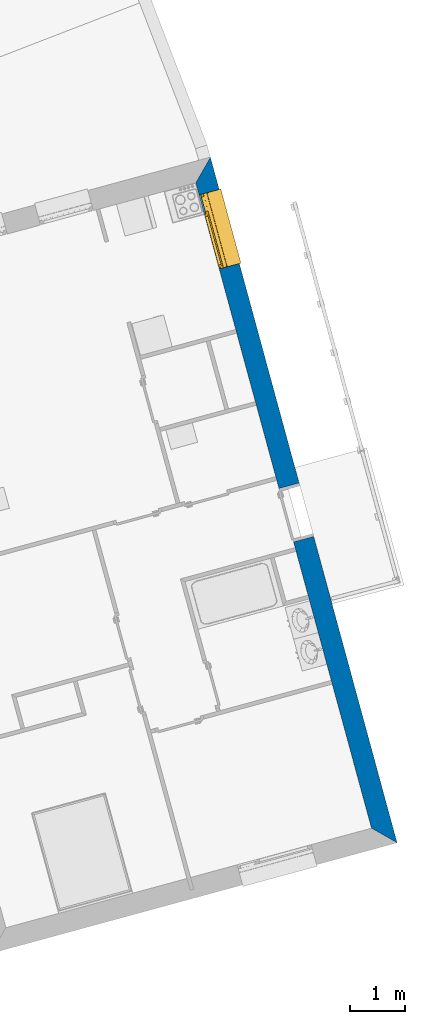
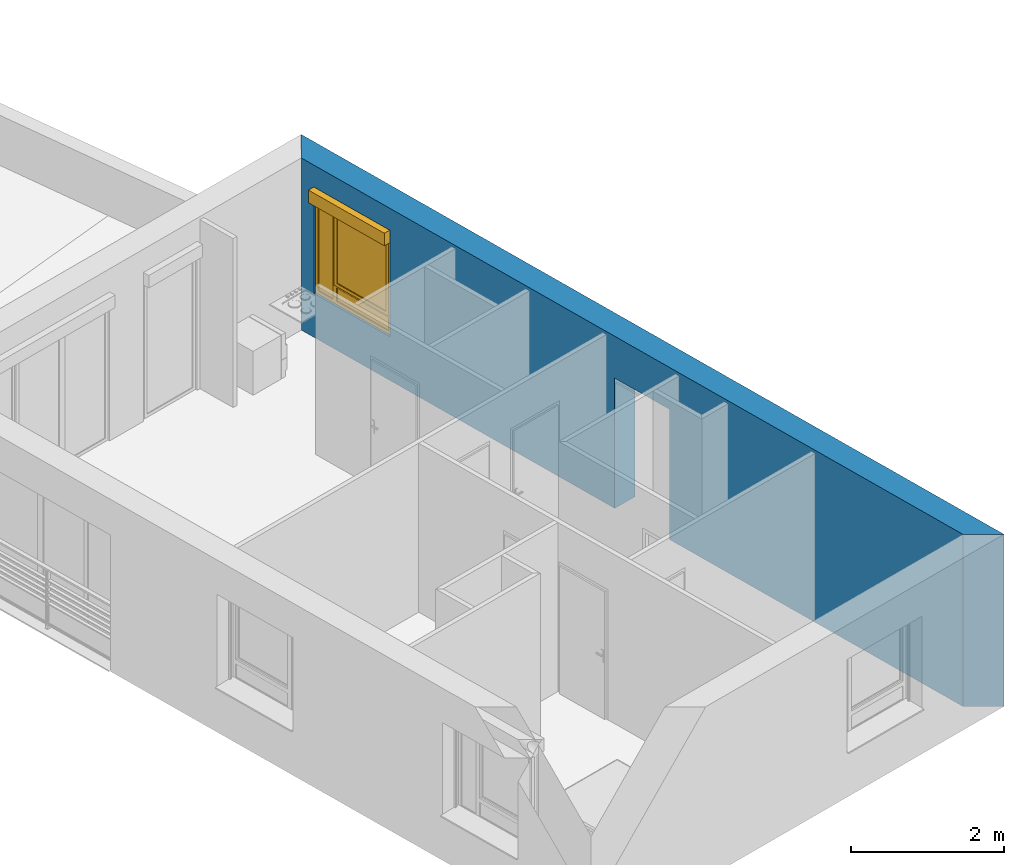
# One storey, part 67 of 121: 1 wall, 1 window, 2 openings.
"""IFC2X3 building model written with IfcOpenShell, lengths in metres."""

from ifc_helpers import new_model, entity, si_unit, converted_unit, derived_unit, money_unit, direction, frame, origin_with_axes, origin_2d_with_axis, place, context, subcontext, project, spatial, polyline, rectangle, outline, extrude, open_shell, faceted_brep, surface_model, source, transform, mapped, material, layer, layer_set, layer_usage, type_object, element, fill, save


model = new_model("IFC2X3")

# Units and contexts
model_context = context("Model", 3, precision=1e-05, world=origin_with_axes(), true_north=direction((0.0, 1.0)))
body_context = subcontext(model_context, "Body", "Model", "MODEL_VIEW")
ifc_project = project(units=[si_unit("LENGTHUNIT", "METRE"), si_unit("AREAUNIT", "SQUARE_METRE"), si_unit("VOLUMEUNIT", "CUBIC_METRE"), converted_unit("PLANEANGLEUNIT", "DEGREE", entity("IfcPlaneAngleMeasure", 0.0174532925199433), si_unit("PLANEANGLEUNIT", "RADIAN"), dimensions=[0, 0, 0, 0, 0, 0, 0]), money_unit("CHF"), converted_unit("TIMEUNIT", "Year", entity("IfcTimeMeasure", 31557600.0), si_unit("TIMEUNIT", "SECOND"), dimensions=[0, 0, 1, 0, 0, 0, 0]), si_unit("MASSUNIT", "GRAM", prefix="KILO"), si_unit("THERMODYNAMICTEMPERATUREUNIT", "DEGREE_CELSIUS"), si_unit("LUMINOUSINTENSITYUNIT", "LUMEN"), si_unit("ENERGYUNIT", "JOULE", prefix="MEGA"), derived_unit("THERMALCONDUCTANCEUNIT", [(si_unit("POWERUNIT", "WATT"), 1), (si_unit("LENGTHUNIT", "METRE"), -1), (si_unit("THERMODYNAMICTEMPERATUREUNIT", "KELVIN"), -1)]), derived_unit("SPECIFICHEATCAPACITYUNIT", [(si_unit("ENERGYUNIT", "JOULE"), 1), (si_unit("MASSUNIT", "GRAM", prefix="KILO"), -1), (si_unit("THERMODYNAMICTEMPERATUREUNIT", "KELVIN"), -1)]), derived_unit("MASSDENSITYUNIT", [(si_unit("MASSUNIT", "GRAM", prefix="KILO"), 1), (si_unit("VOLUMEUNIT", "CUBIC_METRE"), -1)])], contexts=[model_context])

# Site, building, storey
site_placement = place(None, origin_with_axes())
site = spatial("IfcSite", under=ifc_project, at=site_placement, Name="Site", CompositionType="ELEMENT")
building_placement = place(site_placement, origin_with_axes())
building = spatial("IfcBuilding", under=site, at=building_placement, Name="Bâtiment", CompositionType="ELEMENT")
storey_placement = place(building_placement, frame((0.0, 0.0, 2.75), z_axis=(0.0, 0.0, 1.0), x_axis=(1.0, 0.0, 0.0)))
storey = spatial("IfcBuildingStorey", under=building, at=storey_placement, Name="Etage 1", CompositionType="ELEMENT", Elevation=2.75)

# Wall, openings, window
ifc_material_1 = material(Name="Parpaing 312445824")
ifc_layer_1 = layer(ifc_material_1, 0.22, ventilated="UNKNOWN")
ifc_material_2 = material(Name="Isolant styromousse 301821074")
ifc_layer_2 = layer(ifc_material_2, 0.16, ventilated="UNKNOWN")
ifc_layer_set = layer_set([ifc_layer_1, ifc_layer_2], Name="isol int 22+16 0836643197")
ifc_layer_usage = layer_usage(ifc_layer_set, "AXIS2", "POSITIVE", 0.0)
wall_type = type_object("IfcWallType", Name="isol int 22+16 0836643197 380", PredefinedType="NOTDEFINED")
wall_placement = place(storey_placement, frame((9597.140845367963, -1057.414526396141, 57.7), z_axis=(0.0, 0.0, 1.0), x_axis=(-0.262734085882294, 0.9648682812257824, 0.0)))
wall = element("IfcWallStandardCase", 1, at=wall_placement, inside=storey, type_object=wall_type, material=ifc_layer_usage, Name="Mur-113", context=body_context, shape_type="SweptSolid", body=[
    extrude(outline(polyline([(0.0, 0.0), (12.95727343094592, 0.0), (12.57727343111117, 0.3799999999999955), (0.3800000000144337, 0.3799999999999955), (0.0, 0.0)])), origin_with_axes(), (0.0, 0.0, 1.0), 2.75),
])
opening_1_placement = place(wall_placement, frame((11.64681429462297, 0.0, 0.7000000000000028), z_axis=(0.0, 0.0, 1.0), x_axis=(1.0, 0.0, 0.0)))
opening_1 = element("IfcOpeningElement", 2, at=opening_1_placement, cuts=wall, Name="Fen-045", context=body_context, shape_type="Brep", body=[
    faceted_brep([(0.6999999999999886, 0.2200000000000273, 1.5), (-0.6999999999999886, 0.2200000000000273, 1.5), (-0.7000000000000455, -3.28571786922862, 1.5), (0.6999999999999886, -3.28571786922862, 1.5), (0.6999999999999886, 0.2200000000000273, 1.700000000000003), (-0.6999999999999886, 0.2200000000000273, 1.700000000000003), (-0.7000000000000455, 0.2999999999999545, 1.5), (-0.7000000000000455, 0.2999999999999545, 0.0), (-0.7000000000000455, -3.28571786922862, 0.0), (0.6999999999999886, -3.28571786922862, 0.0), (0.6999999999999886, 0.3000000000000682, 1.5), (0.6999999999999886, 0.3000000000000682, 0.0), (0.6999999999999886, 0.4800000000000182, 1.5), (0.6999999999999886, 0.4800000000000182, 1.700000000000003), (-0.7000000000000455, 0.4799999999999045, 1.700000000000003), (-0.7000000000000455, 0.4799999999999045, 1.5), (-0.7000000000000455, 3.665717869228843, 1.5), (-0.7000000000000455, 3.665717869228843, 0.0), (0.6999999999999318, 3.665717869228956, 0.0), (0.6999999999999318, 3.665717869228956, 1.5)], [[[0, 1, 2, 3]], [[1, 0, 4, 5]], [[1, 6, 7, 8, 2]], [[2, 8, 9, 3]], [[10, 0, 3, 9, 11]], [[0, 10, 12, 13, 4]], [[4, 13, 14, 5]], [[6, 1, 5, 14, 15]], [[6, 15, 16, 17, 7]], [[7, 11, 9, 8]], [[12, 10, 11, 18, 19]], [[12, 15, 14, 13]], [[15, 12, 19, 16]], [[19, 18, 17, 16]], [[11, 7, 17, 18]]]),
])
opening_2_placement = place(wall_placement, frame((6.294315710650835, 0.0, 0.0), z_axis=(0.0, 0.0, 1.0), x_axis=(1.0, 0.0, 0.0)))
element("IfcOpeningElement", 3, at=opening_2_placement, cuts=wall, Name="Por-293", context=body_context, shape_type="SweptSolid", body=[
    extrude(rectangle(XDim=1.01000001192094, YDim=2.079999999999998, at=origin_2d_with_axis()), frame((-5.960430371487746e-09, -0.3799999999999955, 1.039999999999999), z_axis=(0.0, -1.0, 0.0), x_axis=(-1.0, 0.0, 0.0)), (0.0, 0.0, -1.0), 0.76),
])
window_style = type_object("IfcWindowStyle", Name="Fenêtre variable 27", ConstructionType="NOTDEFINED", OperationType="TRIPLE_PANEL_RIGHT", ParameterTakesPrecedence=False, Sizeable=False)
shared_shape = source(origin_with_axes(), body_context, "Body", "SurfaceModel", [
    surface_model("IfcShellBasedSurfaceModel", [(-0.7, -0.05100000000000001, 0.05), (-0.7, -0.05100000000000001, 0.04), (0.7, -0.05100000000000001, 0.04000000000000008), (0.7, -0.05100000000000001, 0.05000000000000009), (-0.7, -0.3799999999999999, 0.02899999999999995), (0.7, -0.3799999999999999, 0.02900000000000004), (-0.7, -0.3799999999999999, 0.008999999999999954), (0.7, -0.3799999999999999, 0.00900000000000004), (-0.7, -0.3699999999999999, 0.01899999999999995), (0.7, -0.3699999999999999, 0.01900000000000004)], [open_shell([[[0, 1, 2, 3]], [[1, 4, 5, 2]], [[4, 6, 7, 5]], [[6, 8, 9, 7]]])]),
    faceted_brep([(-0.7, -0.13, 1.7), (-0.697, -0.13, 1.7), (-0.697, 0.13, 1.7), (-0.7, 0.13, 1.7), (-0.7, -0.13, 1.5), (-0.697, -0.13, 1.5), (-0.697, 0.13, 1.5), (-0.7, 0.13, 1.5)], [[[0, 1, 2, 3]], [[4, 5, 1, 0]], [[1, 5, 6, 2]], [[3, 2, 6, 7]], [[0, 3, 7, 4]], [[7, 6, 5, 4]]]),
    faceted_brep([(0.6970000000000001, -0.1299999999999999, 1.7), (0.7000000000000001, -0.1299999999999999, 1.7), (0.7000000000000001, 0.1300000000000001, 1.7), (0.6970000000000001, 0.1300000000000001, 1.7), (0.6970000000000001, -0.1299999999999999, 1.5), (0.7000000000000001, -0.1299999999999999, 1.5), (0.7000000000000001, 0.1300000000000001, 1.5), (0.6970000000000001, 0.1300000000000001, 1.5)], [[[0, 1, 2, 3]], [[4, 5, 1, 0]], [[1, 5, 6, 2]], [[3, 2, 6, 7]], [[0, 3, 7, 4]], [[7, 6, 5, 4]]]),
    faceted_brep([(-0.697, -0.13, 1.5), (0.697, -0.1299999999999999, 1.5), (0.697, -0.1299999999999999, 1.7), (-0.697, -0.13, 1.7), (-0.697, -0.127, 1.5), (0.697, -0.1269999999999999, 1.5), (0.697, -0.1269999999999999, 1.697), (0.697, 0.1270000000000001, 1.697), (0.697, 0.1270000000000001, 1.503), (0.697, -0.1079999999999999, 1.503), (0.697, -0.1079999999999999, 1.5), (0.697, 0.1300000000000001, 1.5), (0.697, 0.1300000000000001, 1.7), (-0.697, 0.13, 1.7), (-0.697, 0.13, 1.5), (-0.697, -0.108, 1.5), (-0.697, -0.108, 1.503), (-0.697, 0.127, 1.503), (-0.697, 0.127, 1.697), (-0.697, -0.127, 1.697)], [[[0, 1, 2, 3]], [[4, 5, 1, 0]], [[1, 5, 6, 7, 8, 9, 10, 11, 12, 2]], [[3, 2, 12, 13]], [[0, 3, 13, 14, 15, 16, 17, 18, 19, 4]], [[19, 6, 5, 4]], [[18, 7, 6, 19]], [[17, 8, 7, 18]], [[16, 9, 8, 17]], [[15, 10, 9, 16]], [[14, 11, 10, 15]], [[13, 12, 11, 14]]]),
    faceted_brep([(-0.694, -0.08075423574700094, 1.585760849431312), (-0.694, -0.08200000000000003, 1.6), (-0.694, -0.0807542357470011, 1.614239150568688), (-0.694, -0.07705479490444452, 1.628045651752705), (-0.694, -0.07101408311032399, 1.641), (-0.694, -0.06281564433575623, 1.652708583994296), (-0.694, -0.05270858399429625, 1.662815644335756), (-0.694, -0.04100000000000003, 1.671014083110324), (-0.694, -0.02804565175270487, 1.677054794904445), (-0.694, -0.01423915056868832, 1.680754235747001), (-0.694, 0.0, 1.682), (-0.694, 0.01423915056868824, 1.680754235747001), (-0.694, 0.02804565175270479, 1.677054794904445), (-0.694, 0.04099999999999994, 1.671014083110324), (-0.694, 0.05270858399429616, 1.662815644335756), (-0.694, 0.06281564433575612, 1.652708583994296), (-0.694, 0.07101408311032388, 1.641), (-0.694, 0.0770547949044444, 1.628045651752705), (-0.694, 0.08075423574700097, 1.614239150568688), (-0.694, 0.0819999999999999, 1.6), (-0.694, 0.08075423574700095, 1.585760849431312), (-0.694, 0.07705479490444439, 1.571954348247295), (-0.694, 0.07101408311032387, 1.559), (-0.694, 0.06281564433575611, 1.547291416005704), (-0.694, 0.05270858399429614, 1.537184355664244), (-0.694, 0.04099999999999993, 1.528985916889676), (-0.694, 0.02804565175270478, 1.522945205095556), (-0.694, 0.01423915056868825, 1.519245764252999), (-0.694, 0.0, 1.518), (-0.694, -0.01423915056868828, 1.519245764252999), (-0.694, -0.02804565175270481, 1.522945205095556), (-0.694, -0.04099999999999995, 1.528985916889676), (-0.694, -0.05270858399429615, 1.537184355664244), (-0.694, -0.06281564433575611, 1.547291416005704), (-0.694, -0.07101408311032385, 1.559), (-0.694, -0.07705479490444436, 1.571954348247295), (0.694, -0.08075423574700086, 1.585760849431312), (0.694, -0.08199999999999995, 1.6), (0.694, -0.08075423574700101, 1.614239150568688), (0.694, -0.07705479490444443, 1.628045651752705), (0.694, -0.07101408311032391, 1.641), (0.694, -0.06281564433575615, 1.652708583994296), (0.694, -0.05270858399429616, 1.662815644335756), (0.694, -0.04099999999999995, 1.671014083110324), (0.694, -0.02804565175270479, 1.677054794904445), (0.694, -0.01423915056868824, 1.680754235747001), (0.694, 0.0, 1.682), (0.694, 0.01423915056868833, 1.680754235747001), (0.694, 0.02804565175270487, 1.677054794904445), (0.694, 0.04100000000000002, 1.671014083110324), (0.694, 0.05270858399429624, 1.662815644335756), (0.694, 0.0628156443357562, 1.652708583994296), (0.694, 0.07101408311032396, 1.641), (0.694, 0.07705479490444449, 1.628045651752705), (0.694, 0.08075423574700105, 1.614239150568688), (0.694, 0.08199999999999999, 1.6), (0.694, 0.08075423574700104, 1.585760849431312), (0.694, 0.07705479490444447, 1.571954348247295), (0.694, 0.07101408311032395, 1.559), (0.694, 0.06281564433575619, 1.547291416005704), (0.694, 0.05270858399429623, 1.537184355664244), (0.694, 0.04100000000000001, 1.528985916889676), (0.694, 0.02804565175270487, 1.522945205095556), (0.694, 0.01423915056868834, 1.519245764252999), (0.694, 0.0, 1.518), (0.694, -0.0142391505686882, 1.519245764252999), (0.694, -0.02804565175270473, 1.522945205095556), (0.694, -0.04099999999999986, 1.528985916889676), (0.694, -0.05270858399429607, 1.537184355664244), (0.694, -0.06281564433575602, 1.547291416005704), (0.694, -0.07101408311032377, 1.559), (0.694, -0.07705479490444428, 1.571954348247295)], [[[0, 1, 2, 3, 4, 5, 6, 7, 8, 9, 10, 11, 12, 13, 14, 15, 16, 17, 18, 19, 20, 21, 22, 23, 24, 25, 26, 27, 28, 29, 30, 31, 32, 33, 34, 35]], [[0, 36, 37, 1]], [[1, 37, 38, 2]], [[2, 38, 39, 3]], [[3, 39, 40, 4]], [[4, 40, 41, 5]], [[5, 41, 42, 6]], [[6, 42, 43, 7]], [[7, 43, 44, 8]], [[8, 44, 45, 9]], [[9, 45, 46, 10]], [[10, 46, 47, 11]], [[11, 47, 48, 12]], [[12, 48, 49, 13]], [[13, 49, 50, 14]], [[14, 50, 51, 15]], [[15, 51, 52, 16]], [[16, 52, 53, 17]], [[17, 53, 54, 18]], [[18, 54, 55, 19]], [[19, 55, 56, 20]], [[20, 56, 57, 21]], [[21, 57, 58, 22]], [[22, 58, 59, 23]], [[23, 59, 60, 24]], [[24, 60, 61, 25]], [[25, 61, 62, 26]], [[26, 62, 63, 27]], [[27, 63, 64, 28]], [[28, 64, 65, 29]], [[29, 65, 66, 30]], [[30, 66, 67, 31]], [[31, 67, 68, 32]], [[32, 68, 69, 33]], [[33, 69, 70, 34]], [[34, 70, 71, 35]], [[35, 71, 36, 0]], [[36, 71, 70, 69, 68, 67, 66, 65, 64, 63, 62, 61, 60, 59, 58, 57, 56, 55, 54, 53, 52, 51, 50, 49, 48, 47, 46, 45, 44, 43, 42, 41, 40, 39, 38, 37]]]),
    faceted_brep([(0.7, -0.105, 0.03), (0.7, -0.1049999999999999, 1.5), (0.7, -0.1299999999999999, 1.5), (0.7, -0.13, 0.03), (0.6749999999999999, -0.105, 0.03), (0.6749999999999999, -0.1049999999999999, 1.5), (0.6749999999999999, -0.1079999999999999, 1.5), (0.697, -0.1079999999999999, 1.5), (0.697, -0.1269999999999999, 1.5), (0.6749999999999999, -0.1269999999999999, 1.5), (0.6749999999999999, -0.1299999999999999, 1.5), (0.6749999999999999, -0.13, 0.03), (0.6749999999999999, -0.127, 0.03), (0.697, -0.127, 0.03), (0.697, -0.108, 0.03), (0.6749999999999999, -0.108, 0.03)], [[[0, 1, 2, 3]], [[4, 5, 1, 0]], [[1, 5, 6, 7, 8, 9, 10, 2]], [[3, 2, 10, 11]], [[0, 3, 11, 12, 13, 14, 15, 4]], [[15, 6, 5, 4]], [[14, 7, 6, 15]], [[13, 8, 7, 14]], [[12, 9, 8, 13]], [[11, 10, 9, 12]]]),
    faceted_brep([(-0.7, -0.105, 0.03), (-0.7, -0.13, 0.03), (-0.7, -0.1299999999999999, 1.5), (-0.7, -0.1049999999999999, 1.5), (-0.6749999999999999, -0.105, 0.03), (-0.6749999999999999, -0.108, 0.03), (-0.697, -0.108, 0.03), (-0.697, -0.127, 0.03), (-0.6749999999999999, -0.127, 0.03), (-0.6749999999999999, -0.13, 0.03), (-0.6749999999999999, -0.1299999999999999, 1.5), (-0.6749999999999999, -0.1269999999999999, 1.5), (-0.697, -0.1269999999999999, 1.5), (-0.697, -0.1079999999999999, 1.5), (-0.6749999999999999, -0.1079999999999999, 1.5), (-0.6749999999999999, -0.1049999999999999, 1.5)], [[[0, 1, 2, 3]], [[0, 4, 5, 6, 7, 8, 9, 1]], [[1, 9, 10, 2]], [[3, 2, 10, 11, 12, 13, 14, 15]], [[4, 0, 3, 15]], [[5, 4, 15, 14]], [[6, 5, 14, 13]], [[7, 6, 13, 12]], [[8, 7, 12, 11]], [[9, 8, 11, 10]]]),
    surface_model("IfcShellBasedSurfaceModel", [(-0.697, -0.115, 1.6), (0.697, -0.1149999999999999, 1.6), (0.697, -0.1199999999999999, 1.6), (-0.697, -0.12, 1.6), (-0.697, -0.115, 1.6), (-0.697, -0.12, 1.6), (0.697, -0.12, 1.6), (0.697, -0.1149999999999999, 1.6)], [open_shell([[[0, 1, 2, 3]], [[4, 5, 6, 7]]])]),
    faceted_brep([(-0.697, -0.115, 1.6), (0.697, -0.1149999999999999, 1.6), (0.697, -0.1166666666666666, 1.583333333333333), (-0.697, -0.1166666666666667, 1.583333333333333), (-0.697, -0.12, 1.6), (0.697, -0.1199999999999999, 1.6), (0.697, -0.1216666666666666, 1.583333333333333), (0.697, -0.1216666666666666, 1.566666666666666), (0.697, -0.1199999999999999, 1.55), (0.697, -0.1149999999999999, 1.55), (0.697, -0.1166666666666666, 1.566666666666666), (-0.697, -0.1166666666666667, 1.566666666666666), (-0.697, -0.115, 1.55), (-0.697, -0.12, 1.55), (-0.697, -0.1216666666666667, 1.566666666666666), (-0.697, -0.1216666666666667, 1.583333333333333)], [[[0, 1, 2, 3]], [[4, 5, 1, 0]], [[1, 5, 6, 7, 8, 9, 10, 2]], [[3, 2, 10, 11]], [[0, 3, 11, 12, 13, 14, 15, 4]], [[15, 6, 5, 4]], [[14, 7, 6, 15]], [[13, 8, 7, 14]], [[12, 9, 8, 13]], [[11, 10, 9, 12]]]),
    faceted_brep([(-0.697, -0.115, 1.55), (0.697, -0.1149999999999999, 1.55), (0.697, -0.1166666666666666, 1.533333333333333), (-0.697, -0.1166666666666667, 1.533333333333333), (-0.697, -0.12, 1.55), (0.697, -0.1199999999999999, 1.55), (0.697, -0.1216666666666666, 1.533333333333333), (0.697, -0.1216666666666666, 1.516666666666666), (0.697, -0.1199999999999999, 1.5), (0.697, -0.1149999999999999, 1.5), (0.697, -0.1166666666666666, 1.516666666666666), (-0.697, -0.1166666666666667, 1.516666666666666), (-0.697, -0.115, 1.5), (-0.697, -0.12, 1.5), (-0.697, -0.1216666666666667, 1.516666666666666), (-0.697, -0.1216666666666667, 1.533333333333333)], [[[0, 1, 2, 3]], [[4, 5, 1, 0]], [[1, 5, 6, 7, 8, 9, 10, 2]], [[3, 2, 10, 11]], [[0, 3, 11, 12, 13, 14, 15, 4]], [[15, 6, 5, 4]], [[14, 7, 6, 15]], [[13, 8, 7, 14]], [[12, 9, 8, 13]], [[11, 10, 9, 12]]]),
    faceted_brep([(-0.6749999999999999, 0.0, 1.45), (-0.7, 0.0, 1.45), (-0.7, -0.05000000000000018, 1.45), (-0.6499999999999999, -0.05000000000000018, 1.45), (-0.6499999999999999, -0.02500000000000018, 1.45), (-0.6749999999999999, -0.02500000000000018, 1.45), (-0.6749999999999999, 0.0, 0.3099999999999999), (-0.6499999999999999, 0.0, 0.3099999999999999), (-0.6499999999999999, 0.0, 0.265), (-0.6499999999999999, 0.0, 0.05000000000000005), (-0.7, 0.0, 0.05000000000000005), (-0.7, -0.05000000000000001, 0.05000000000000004), (-0.6499999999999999, -0.05000000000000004, 0.335), (-0.6499999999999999, -0.05000000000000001, 0.05000000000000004), (-0.6499999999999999, -0.05000000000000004, 0.265), (-0.6499999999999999, -0.02500000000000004, 0.335), (-0.6499999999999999, -0.02500000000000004, 0.3099999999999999), (-0.6749999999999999, -0.02500000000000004, 0.3099999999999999)], [[[0, 1, 2, 3, 4, 5]], [[6, 7, 8, 9, 10, 1, 0]], [[1, 10, 11, 2]], [[12, 3, 2, 11, 13, 14]], [[4, 3, 12, 15]], [[15, 16, 17, 5, 4]], [[5, 17, 6, 0]], [[6, 17, 16, 7]], [[16, 15, 12, 14, 8, 7]], [[9, 8, 14, 13]], [[10, 9, 13, 11]]]),
    faceted_brep([(0.3068894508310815, -0.02500000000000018, 1.45), (0.3068894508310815, -0.05000000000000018, 1.45), (0.3768894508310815, -0.05000000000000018, 1.45), (0.3768894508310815, 0.0, 1.45), (0.3318894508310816, 0.0, 1.45), (0.3318894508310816, -0.02500000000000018, 1.45), (0.3068894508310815, -0.02500000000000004, 0.335), (0.3068894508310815, -0.05000000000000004, 0.335), (0.3068894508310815, -0.05000000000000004, 0.265), (0.3068894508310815, -0.05000000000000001, 0.05000000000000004), (0.3768894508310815, -0.05000000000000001, 0.05000000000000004), (0.3768894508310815, 0.0, 0.05000000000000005), (0.3318894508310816, 0.0, 0.3099999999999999), (0.3068894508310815, 0.0, 0.05000000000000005), (0.3068894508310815, 0.0, 0.265), (0.3068894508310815, 0.0, 0.3099999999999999), (0.3318894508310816, -0.02500000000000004, 0.3099999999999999), (0.3068894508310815, -0.02500000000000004, 0.3099999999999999)], [[[0, 1, 2, 3, 4, 5]], [[6, 7, 1, 0]], [[8, 9, 10, 2, 1, 7]], [[11, 3, 2, 10]], [[12, 4, 3, 11, 13, 14, 15]], [[12, 16, 5, 4]], [[5, 16, 17, 6, 0]], [[17, 15, 14, 8, 7, 6]], [[14, 13, 9, 8]], [[13, 11, 10, 9]], [[15, 17, 16, 12]]]),
    faceted_brep([(-0.6499999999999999, -0.02500000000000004, 0.335), (-0.6499999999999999, -0.05000000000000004, 0.335), (0.3068894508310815, -0.05000000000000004, 0.335), (0.3068894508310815, -0.02500000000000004, 0.335), (-0.6499999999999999, -0.02500000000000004, 0.3099999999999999), (-0.6499999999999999, 0.0, 0.3099999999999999), (-0.6499999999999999, 0.0, 0.265), (-0.6499999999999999, -0.05000000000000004, 0.265), (0.3068894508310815, -0.05000000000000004, 0.265), (0.3068894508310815, -0.02500000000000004, 0.3099999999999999), (0.3068894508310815, 0.0, 0.265), (0.3068894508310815, 0.0, 0.3099999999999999)], [[[0, 1, 2, 3]], [[4, 5, 6, 7, 1, 0]], [[2, 1, 7, 8]], [[9, 3, 2, 8, 10, 11]], [[9, 4, 0, 3]], [[5, 4, 9, 11]], [[11, 10, 6, 5]], [[6, 10, 8, 7]]]),
    faceted_brep([(-0.6749999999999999, 0.0, 1.45), (-0.7, 0.0, 1.45), (-0.7, 0.0, 1.5), (0.7, 0.0, 1.5), (0.7, 0.0, 1.45), (0.6499999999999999, 0.0, 1.45), (0.3768894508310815, 0.0, 1.45), (0.3318894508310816, 0.0, 1.45), (0.3318894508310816, 0.0, 1.475), (-0.6749999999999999, 0.0, 1.475), (-0.6749999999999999, -0.02500000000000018, 1.45), (-0.6499999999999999, -0.02500000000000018, 1.45), (-0.6499999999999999, -0.05000000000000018, 1.45), (-0.7, -0.05000000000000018, 1.45), (-0.7, -0.05000000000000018, 1.5), (0.7, -0.05000000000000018, 1.5), (0.7, -0.05000000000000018, 1.45), (0.6499999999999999, -0.05000000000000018, 1.45), (0.3768894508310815, -0.05000000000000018, 1.45), (0.3318894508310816, -0.02500000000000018, 1.45), (0.3068894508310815, -0.05000000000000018, 1.45), (0.3068894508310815, -0.02500000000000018, 1.45), (0.3318894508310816, -0.02500000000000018, 1.475), (-0.6749999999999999, -0.02500000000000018, 1.475)], [[[0, 1, 2, 3, 4, 5, 6, 7, 8, 9]], [[10, 11, 12, 13, 1, 0]], [[2, 1, 13, 14]], [[3, 2, 14, 15]], [[4, 3, 15, 16]], [[5, 4, 16, 17]], [[6, 5, 17, 18]], [[19, 7, 6, 18, 20, 21]], [[7, 19, 22, 8]], [[8, 22, 23, 9]], [[9, 23, 10, 0]], [[21, 11, 10, 23, 22, 19]], [[21, 20, 12, 11]], [[18, 17, 16, 15, 14, 13, 12, 20]]]),
    faceted_brep([(0.6499999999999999, -0.05000000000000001, 0.05), (0.6499999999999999, 0.0, 0.05000000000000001), (0.7, 0.0, 0.05000000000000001), (0.7, -0.05000000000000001, 0.05), (0.6499999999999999, -0.05000000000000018, 1.45), (0.6499999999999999, 0.0, 1.45), (0.7, 0.0, 1.45), (0.7, -0.05000000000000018, 1.45)], [[[0, 1, 2, 3]], [[4, 5, 1, 0]], [[1, 5, 6, 2]], [[3, 2, 6, 7]], [[0, 3, 7, 4]], [[7, 6, 5, 4]]]),
    faceted_brep([(-0.6499999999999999, -0.05000000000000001, 0.05), (-0.6499999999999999, 0.0, 0.05000000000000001), (-0.7, 0.0, 0.05000000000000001), (-0.7, -0.05000000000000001, 0.05), (0.3068894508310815, -0.05000000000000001, 0.05), (0.3068894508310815, 0.0, 0.05000000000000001), (0.3768894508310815, 0.0, 0.05000000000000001), (0.6499999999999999, 0.0, 0.05000000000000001), (0.7, 0.0, 0.05000000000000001), (0.7, 0.0, 0.0), (-0.7, 0.0, 0.0), (-0.7, -0.05, 0.0), (0.7, -0.05, 0.0), (0.7, -0.05000000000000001, 0.05), (0.6499999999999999, -0.05000000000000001, 0.05), (0.3768894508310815, -0.05000000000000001, 0.05)], [[[0, 1, 2, 3]], [[4, 5, 1, 0]], [[1, 5, 6, 7, 8, 9, 10, 2]], [[3, 2, 10, 11]], [[0, 3, 11, 12, 13, 14, 15, 4]], [[15, 6, 5, 4]], [[14, 7, 6, 15]], [[13, 8, 7, 14]], [[12, 9, 8, 13]], [[11, 10, 9, 12]]]),
    faceted_brep([(-0.625, -0.02500000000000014, 1.425), (-0.625, 0.02499999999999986, 1.425), (-0.6749999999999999, 0.02499999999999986, 1.425), (-0.6749999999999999, -0.02500000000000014, 1.425), (-0.625, -0.02500000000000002, 0.3599999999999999), (-0.625, 0.02499999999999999, 0.3599999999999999), (-0.6749999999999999, 0.02499999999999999, 0.3599999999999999), (-0.6749999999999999, -0.02500000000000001, 0.3599999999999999)], [[[0, 1, 2, 3]], [[4, 5, 1, 0]], [[1, 5, 6, 2]], [[3, 2, 6, 7]], [[0, 3, 7, 4]], [[7, 6, 5, 4]]]),
    faceted_brep([(0.2818894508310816, -0.02500000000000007, 0.3599999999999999), (0.2818894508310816, 0.02499999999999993, 0.3599999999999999), (0.3318894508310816, 0.02499999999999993, 0.3599999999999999), (0.3318894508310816, -0.02500000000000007, 0.3599999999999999), (0.2818894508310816, -0.0250000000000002, 1.425), (0.2818894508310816, 0.0249999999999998, 1.425), (0.3318894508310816, 0.0249999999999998, 1.425), (0.3318894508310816, -0.0250000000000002, 1.425)], [[[0, 1, 2, 3]], [[4, 5, 1, 0]], [[1, 5, 6, 2]], [[3, 2, 6, 7]], [[0, 3, 7, 4]], [[7, 6, 5, 4]]]),
    faceted_brep([(0.3318894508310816, -0.02500000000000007, 0.3099999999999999), (0.3318894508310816, 0.02499999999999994, 0.3099999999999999), (0.3318894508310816, 0.02499999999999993, 0.3599999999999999), (0.3318894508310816, -0.02500000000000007, 0.3599999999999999), (-0.6749999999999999, -0.025, 0.3099999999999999), (-0.6749999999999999, 0.02499999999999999, 0.3099999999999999), (-0.6749999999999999, 0.02499999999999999, 0.3599999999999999), (-0.625, 0.02499999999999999, 0.3599999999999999), (0.2818894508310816, 0.02499999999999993, 0.3599999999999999), (0.2818894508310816, -0.02500000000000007, 0.3599999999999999), (-0.625, -0.02500000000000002, 0.3599999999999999), (-0.6749999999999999, -0.02500000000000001, 0.3599999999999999)], [[[0, 1, 2, 3]], [[4, 5, 1, 0]], [[1, 5, 6, 7, 8, 2]], [[3, 2, 8, 9]], [[0, 3, 9, 10, 11, 4]], [[11, 6, 5, 4]], [[10, 7, 6, 11]], [[9, 8, 7, 10]]]),
    faceted_brep([(-0.6749999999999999, -0.02500000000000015, 1.475), (-0.6749999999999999, 0.02499999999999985, 1.475), (-0.6749999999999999, 0.02499999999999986, 1.425), (-0.6749999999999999, -0.02500000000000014, 1.425), (0.3318894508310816, -0.02500000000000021, 1.475), (0.3318894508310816, 0.02499999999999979, 1.475), (0.3318894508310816, 0.0249999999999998, 1.425), (0.2818894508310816, 0.0249999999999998, 1.425), (-0.625, 0.02499999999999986, 1.425), (-0.625, -0.02500000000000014, 1.425), (0.2818894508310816, -0.0250000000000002, 1.425), (0.3318894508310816, -0.0250000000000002, 1.425)], [[[0, 1, 2, 3]], [[4, 5, 1, 0]], [[1, 5, 6, 7, 8, 2]], [[3, 2, 8, 9]], [[0, 3, 9, 10, 11, 4]], [[11, 6, 5, 4]], [[10, 7, 6, 11]], [[9, 8, 7, 10]]]),
    surface_model("IfcShellBasedSurfaceModel", [(-0.625, -0.01000000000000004, 0.3599999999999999), (0.2818894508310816, -0.01000000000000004, 0.3599999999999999), (0.2818894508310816, -0.01000000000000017, 1.425), (-0.625, -0.01000000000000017, 1.425)], [open_shell([[[0, 1, 2, 3]]])]),
    surface_model("IfcShellBasedSurfaceModel", [(-0.625, 0.009999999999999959, 0.3599999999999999), (-0.625, 0.00999999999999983, 1.425), (0.2818894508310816, 0.00999999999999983, 1.425), (0.2818894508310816, 0.009999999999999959, 0.3599999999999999)], [open_shell([[[0, 1, 2, 3]]])]),
    surface_model("IfcShellBasedSurfaceModel", [(0.3768894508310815, -0.035, 0.05), (0.65, -0.035, 0.05), (0.65, -0.03500000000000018, 1.45), (0.3768894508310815, -0.03500000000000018, 1.45)], [open_shell([[[0, 1, 2, 3]]])]),
    surface_model("IfcShellBasedSurfaceModel", [(0.3768894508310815, -0.015, 0.05), (0.3768894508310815, -0.01500000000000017, 1.45), (0.65, -0.01500000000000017, 1.45), (0.65, -0.015, 0.05)], [open_shell([[[0, 1, 2, 3]]])]),
    surface_model("IfcShellBasedSurfaceModel", [(-0.6499999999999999, -0.035, 0.05), (0.3068894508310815, -0.035, 0.05), (0.3068894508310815, -0.03500000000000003, 0.265), (-0.6499999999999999, -0.03500000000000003, 0.265)], [open_shell([[[0, 1, 2, 3]]])]),
    surface_model("IfcShellBasedSurfaceModel", [(-0.6499999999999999, -0.015, 0.05), (-0.6499999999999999, -0.01500000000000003, 0.265), (0.3068894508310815, -0.01500000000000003, 0.265), (0.3068894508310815, -0.015, 0.05)], [open_shell([[[0, 1, 2, 3]]])]),
])
window_placement = place(opening_1_placement, frame((-0.7000000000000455, 0.0, 0.0), z_axis=(0.0, 0.0, 1.0), x_axis=(1.0, 0.0, 0.0)))
window = element("IfcWindow", 4, at=window_placement, inside=storey, type_object=window_style, Name="Fen-045", OverallHeight=1.5, OverallWidth=1.4, context=body_context, shape_type="MappedRepresentation", body=[
    mapped(shared_shape, transform((0.6999999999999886, 0.3500000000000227, 0.0))),
])
fill(opening_1, window)

save(model, "model.ifc")
